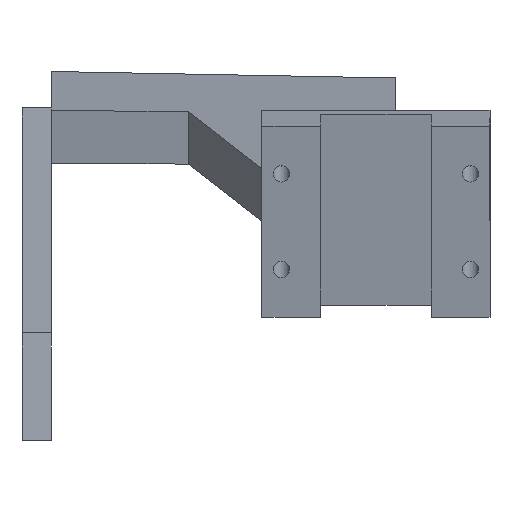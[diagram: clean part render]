
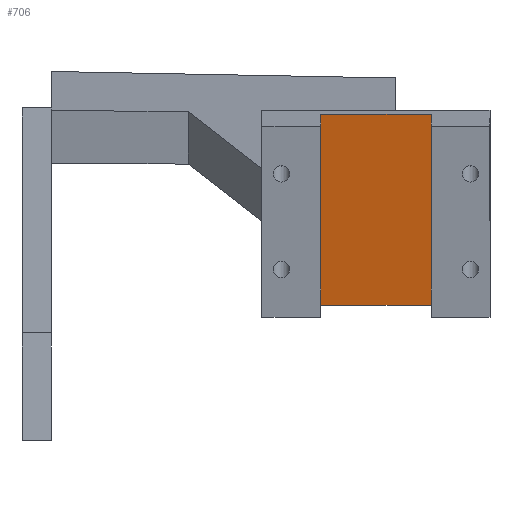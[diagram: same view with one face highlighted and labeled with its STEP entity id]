
A CAD part, left-side view. The second image highlights one B-rep face of the part: STEP entity #706.
In plain terms, the highlighted planar face has unit normal (-0.976, 0, -0.216).
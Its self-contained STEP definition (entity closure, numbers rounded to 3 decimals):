
#44 = PLANE('',#45);
#45 = AXIS2_PLACEMENT_3D('',#46,#47,#48);
#46 = CARTESIAN_POINT('',(-2.633,-195.495,-230.92));
#47 = DIRECTION('',(-0.216,0.,0.976));
#48 = DIRECTION('',(0.976,0.,0.216));
#100 = PLANE('',#101);
#101 = AXIS2_PLACEMENT_3D('',#102,#103,#104);
#102 = CARTESIAN_POINT('',(6.023,-195.495,-269.972));
#103 = DIRECTION('',(-0.216,0.,0.976));
#104 = DIRECTION('',(0.976,0.,0.216));
#125 = PLANE('',#126);
#126 = AXIS2_PLACEMENT_3D('',#127,#128,#129);
#127 = CARTESIAN_POINT('',(-5.061,-183.495,-273.453));
#128 = DIRECTION('',(0.,1.,0.));
#129 = DIRECTION('',(-0.216,0.,0.976));
#318 = VERTEX_POINT('',#319);
#319 = CARTESIAN_POINT('',(8.179,-160.845,-228.523));
#332 = PLANE('',#333);
#333 = AXIS2_PLACEMENT_3D('',#334,#335,#336);
#334 = CARTESIAN_POINT('',(-5.061,-160.845,-273.453));
#335 = DIRECTION('',(0.,1.,0.));
#336 = DIRECTION('',(-0.216,0.,0.976));
#343 = EDGE_CURVE('',#344,#318,#346,.T.);
#344 = VERTEX_POINT('',#345);
#345 = CARTESIAN_POINT('',(8.179,-183.495,-228.523));
#346 = SURFACE_CURVE('',#347,(#351,#357),.PCURVE_S1.);
#347 = LINE('',#348,#349);
#348 = CARTESIAN_POINT('',(8.179,-189.495,-228.523));
#349 = VECTOR('',#350,1.);
#350 = DIRECTION('',(0.,1.,0.));
#351 = PCURVE('',#44,#352);
#352 = DEFINITIONAL_REPRESENTATION('',(#353),#356);
#353 = B_SPLINE_CURVE_WITH_KNOTS('',1,(#354,#355),.UNSPECIFIED.,.F.,.F.,
  (2,2),(6.,28.65),.PIECEWISE_BEZIER_KNOTS.);
#354 = CARTESIAN_POINT('',(11.075,12.));
#355 = CARTESIAN_POINT('',(11.075,34.65));
#356 = ( GEOMETRIC_REPRESENTATION_CONTEXT(2) 
PARAMETRIC_REPRESENTATION_CONTEXT() REPRESENTATION_CONTEXT('2D SPACE',''
  ) );
#357 = PCURVE('',#358,#363);
#358 = PLANE('',#359);
#359 = AXIS2_PLACEMENT_3D('',#360,#361,#362);
#360 = CARTESIAN_POINT('',(17.052,-183.495,-268.552));
#361 = DIRECTION('',(0.976,0.,0.216));
#362 = DIRECTION('',(-0.216,0.,0.976));
#363 = DEFINITIONAL_REPRESENTATION('',(#364),#367);
#364 = B_SPLINE_CURVE_WITH_KNOTS('',1,(#365,#366),.UNSPECIFIED.,.F.,.F.,
  (2,2),(6.,28.65),.PIECEWISE_BEZIER_KNOTS.);
#365 = CARTESIAN_POINT('',(41.,0.));
#366 = CARTESIAN_POINT('',(41.,-22.65));
#367 = ( GEOMETRIC_REPRESENTATION_CONTEXT(2) 
PARAMETRIC_REPRESENTATION_CONTEXT() REPRESENTATION_CONTEXT('2D SPACE',''
  ) );
#440 = EDGE_CURVE('',#441,#344,#443,.T.);
#441 = VERTEX_POINT('',#442);
#442 = CARTESIAN_POINT('',(16.835,-183.495,-267.575));
#443 = SURFACE_CURVE('',#444,(#448,#455),.PCURVE_S1.);
#444 = LINE('',#445,#446);
#445 = CARTESIAN_POINT('',(17.052,-183.495,-268.552));
#446 = VECTOR('',#447,1.);
#447 = DIRECTION('',(-0.216,0.,0.976));
#448 = PCURVE('',#125,#449);
#449 = DEFINITIONAL_REPRESENTATION('',(#450),#454);
#450 = LINE('',#451,#452);
#451 = CARTESIAN_POINT('',(0.,22.65));
#452 = VECTOR('',#453,1.);
#453 = DIRECTION('',(1.,0.));
#454 = ( GEOMETRIC_REPRESENTATION_CONTEXT(2) 
PARAMETRIC_REPRESENTATION_CONTEXT() REPRESENTATION_CONTEXT('2D SPACE',''
  ) );
#455 = PCURVE('',#358,#456);
#456 = DEFINITIONAL_REPRESENTATION('',(#457),#461);
#457 = LINE('',#458,#459);
#458 = CARTESIAN_POINT('',(0.,0.));
#459 = VECTOR('',#460,1.);
#460 = DIRECTION('',(1.,0.));
#461 = ( GEOMETRIC_REPRESENTATION_CONTEXT(2) 
PARAMETRIC_REPRESENTATION_CONTEXT() REPRESENTATION_CONTEXT('2D SPACE',''
  ) );
#559 = VERTEX_POINT('',#560);
#560 = CARTESIAN_POINT('',(16.835,-160.845,-267.575));
#579 = EDGE_CURVE('',#441,#559,#580,.T.);
#580 = SURFACE_CURVE('',#581,(#585,#591),.PCURVE_S1.);
#581 = LINE('',#582,#583);
#582 = CARTESIAN_POINT('',(16.835,-189.495,-267.575));
#583 = VECTOR('',#584,1.);
#584 = DIRECTION('',(0.,1.,0.));
#585 = PCURVE('',#100,#586);
#586 = DEFINITIONAL_REPRESENTATION('',(#587),#590);
#587 = B_SPLINE_CURVE_WITH_KNOTS('',1,(#588,#589),.UNSPECIFIED.,.F.,.F.,
  (2,2),(6.,28.65),.PIECEWISE_BEZIER_KNOTS.);
#588 = CARTESIAN_POINT('',(11.075,12.));
#589 = CARTESIAN_POINT('',(11.075,34.65));
#590 = ( GEOMETRIC_REPRESENTATION_CONTEXT(2) 
PARAMETRIC_REPRESENTATION_CONTEXT() REPRESENTATION_CONTEXT('2D SPACE',''
  ) );
#591 = PCURVE('',#358,#592);
#592 = DEFINITIONAL_REPRESENTATION('',(#593),#596);
#593 = B_SPLINE_CURVE_WITH_KNOTS('',1,(#594,#595),.UNSPECIFIED.,.F.,.F.,
  (2,2),(6.,28.65),.PIECEWISE_BEZIER_KNOTS.);
#594 = CARTESIAN_POINT('',(1.,0.));
#595 = CARTESIAN_POINT('',(1.,-22.65));
#596 = ( GEOMETRIC_REPRESENTATION_CONTEXT(2) 
PARAMETRIC_REPRESENTATION_CONTEXT() REPRESENTATION_CONTEXT('2D SPACE',''
  ) );
#706 = ADVANCED_FACE('',(#707),#358,.F.);
#707 = FACE_BOUND('',#708,.F.);
#708 = EDGE_LOOP('',(#709,#710,#711,#732));
#709 = ORIENTED_EDGE('',*,*,#440,.F.);
#710 = ORIENTED_EDGE('',*,*,#579,.T.);
#711 = ORIENTED_EDGE('',*,*,#712,.T.);
#712 = EDGE_CURVE('',#559,#318,#713,.T.);
#713 = SURFACE_CURVE('',#714,(#718,#725),.PCURVE_S1.);
#714 = LINE('',#715,#716);
#715 = CARTESIAN_POINT('',(17.052,-160.845,-268.552));
#716 = VECTOR('',#717,1.);
#717 = DIRECTION('',(-0.216,0.,0.976));
#718 = PCURVE('',#358,#719);
#719 = DEFINITIONAL_REPRESENTATION('',(#720),#724);
#720 = LINE('',#721,#722);
#721 = CARTESIAN_POINT('',(0.,-22.65));
#722 = VECTOR('',#723,1.);
#723 = DIRECTION('',(1.,0.));
#724 = ( GEOMETRIC_REPRESENTATION_CONTEXT(2) 
PARAMETRIC_REPRESENTATION_CONTEXT() REPRESENTATION_CONTEXT('2D SPACE',''
  ) );
#725 = PCURVE('',#332,#726);
#726 = DEFINITIONAL_REPRESENTATION('',(#727),#731);
#727 = LINE('',#728,#729);
#728 = CARTESIAN_POINT('',(0.,22.65));
#729 = VECTOR('',#730,1.);
#730 = DIRECTION('',(1.,0.));
#731 = ( GEOMETRIC_REPRESENTATION_CONTEXT(2) 
PARAMETRIC_REPRESENTATION_CONTEXT() REPRESENTATION_CONTEXT('2D SPACE',''
  ) );
#732 = ORIENTED_EDGE('',*,*,#343,.F.);
